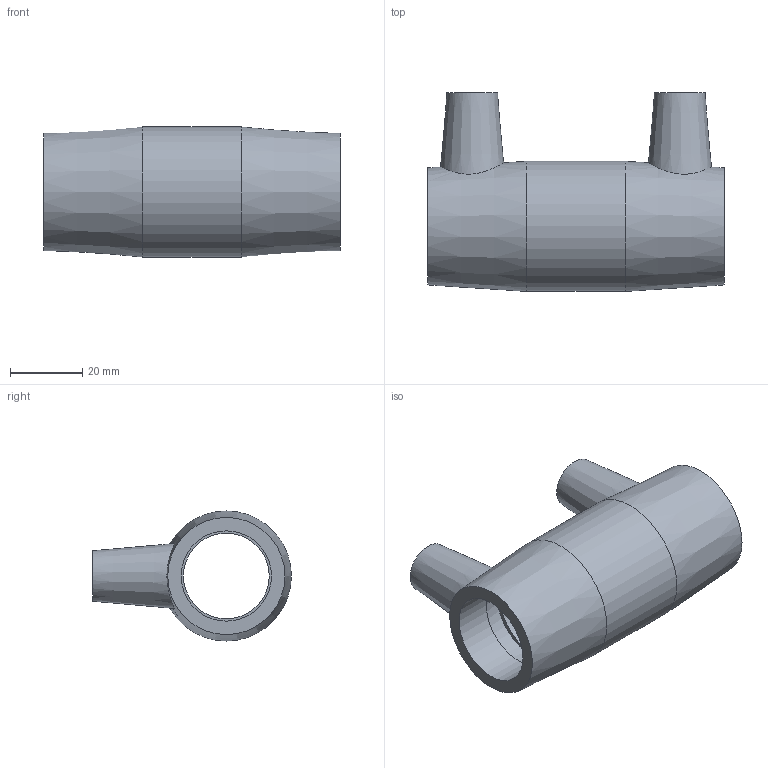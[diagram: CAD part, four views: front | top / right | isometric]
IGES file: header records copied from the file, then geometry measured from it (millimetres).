
Global section: file name: 490104025.ipt; native system: Autodesk Inventor 2015; preprocessor: unknown; author: KIM; date: 20190124.130018; units: millimetre
Bounding box: 82 x 55 x 36 mm (x, y, z)
Volume: 43632 mm3; surface area: 19491.2 mm2
Topology: 1 solids, 1 shells, 28 faces, 64 edges, 46 vertices
Faces by surface type: plane 12, revolution 9, cone 4, cylinder 3
Full cylindrical faces by diameter (mm): 4 x2, 36 x1
